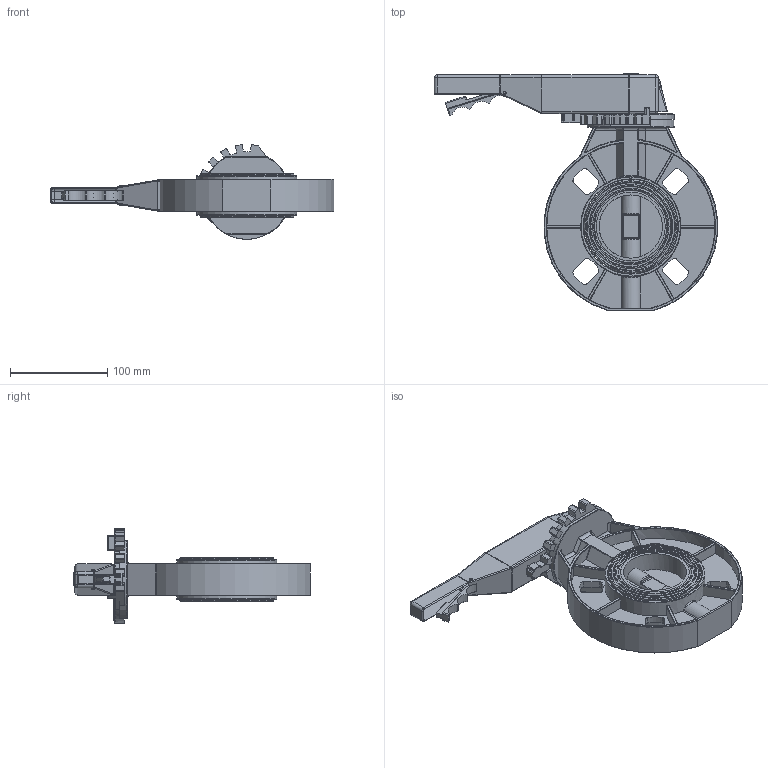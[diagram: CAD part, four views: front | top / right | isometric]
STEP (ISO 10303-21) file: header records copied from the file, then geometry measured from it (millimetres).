
FILE_DESCRIPTION(('STEP AP242'), '1');
FILE_NAME('WBV4242E-2W-Fb-H 青蜮铕 滂耜钼 DN.ru 捏65 畜10', '', ('UNSPECIFIED'), ('UNSPECIFIED'), 'C3D Converter', 'C3D Toolkit', '');
FILE_SCHEMA(('AP242_MANAGED_MODEL_BASED_3D_ENGINEERING_MIM_LF { 1 0 10303 442 1 1 4 }'));
Length unit declared in the file: millimetre
Products named in the file (1): WBV4242E-2W-Fb-H
Bounding box: 291.22 x 243.1 x 97.26 mm (x, y, z)
Surface area: 225780.9 mm2 (no closed solid volume)
Topology: 0 solids, 1 shells, 974 faces, 2500 edges, 1551 vertices
Faces by surface type: plane 360, cylinder 329, bspline 172, torus 88, sphere 23, cone 2
Full cylindrical faces by diameter (mm): 3 x3, 15 x1, 20 x2, 65 x2, 96.2 x1, 97 x1, 103 x2
Entity records: 59247 total; most frequent: CARTESIAN_POINT 28916, ORIENTED_EDGE 4899, DIRECTION 4316, EDGE_CURVE 2458, AXIS2_PLACEMENT_3D 1571, VERTEX_POINT 1551, LINE 1174, VECTOR 1174
